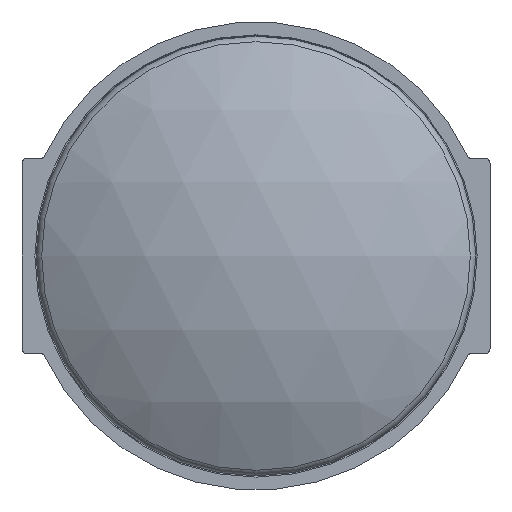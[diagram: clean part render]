
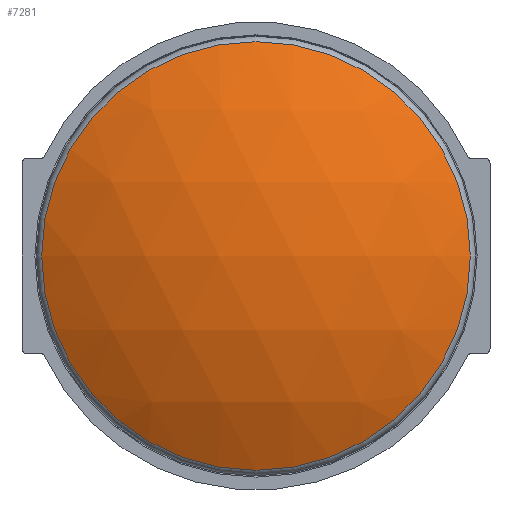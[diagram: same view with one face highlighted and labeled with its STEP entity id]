
A CAD part, front view. The second image highlights one B-rep face of the part: STEP entity #7281.
In plain terms, the highlighted spherical face has radius 127 mm.
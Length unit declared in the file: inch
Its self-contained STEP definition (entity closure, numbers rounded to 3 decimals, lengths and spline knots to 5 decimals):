
#7265=CARTESIAN_POINT('',(0.0,5.0,0.0));
#7266=DIRECTION('',(0.0,0.0,1.0));
#7267=DIRECTION('',(1.0,0.0,0.0));
#7268=AXIS2_PLACEMENT_3D('',#7265,#7266,#7267);
#7269=SPHERICAL_SURFACE('',#7268,5.);
#7270=CARTESIAN_POINT('',(2.46667,0.6508,0.0));
#7271=VERTEX_POINT('',#7270);
#7272=CARTESIAN_POINT('',(0.0,0.6508,0.0));
#7273=DIRECTION('',(0.0,-1.0,0.0));
#7274=DIRECTION('',(1.0,0.0,0.0));
#7275=AXIS2_PLACEMENT_3D('',#7272,#7273,#7274);
#7276=CIRCLE('',#7275,2.46667);
#7277=EDGE_CURVE('',#7271,#7271,#7276,.T.);
#7278=ORIENTED_EDGE('',*,*,#7277,.T.);
#7279=EDGE_LOOP('',(#7278));
#7280=FACE_OUTER_BOUND('',#7279,.T.);
#7281=ADVANCED_FACE('',(#7280),#7269,.T.);
